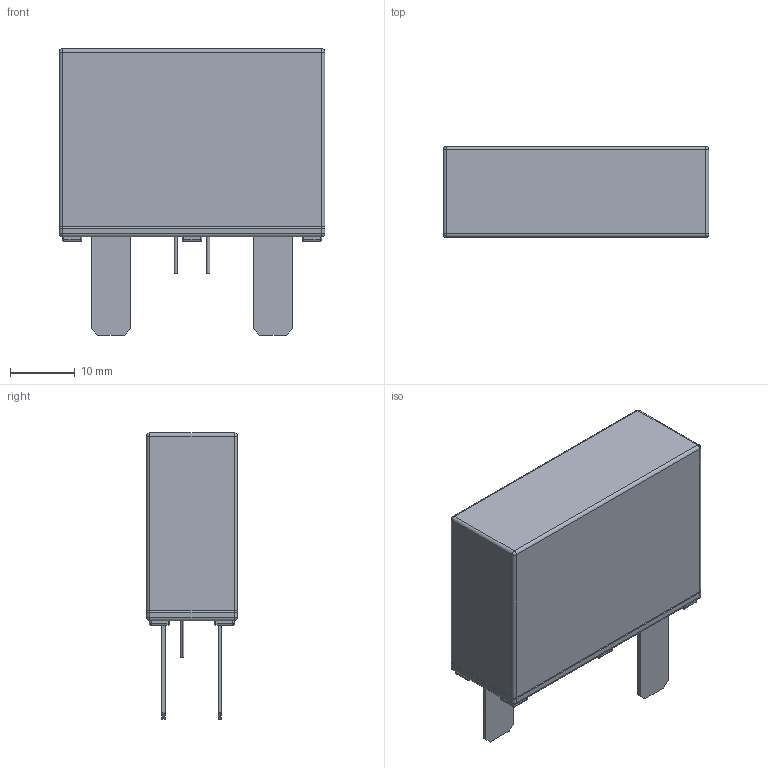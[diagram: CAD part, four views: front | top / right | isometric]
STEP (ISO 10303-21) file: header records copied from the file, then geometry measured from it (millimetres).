
FILE_DESCRIPTION((''),'2;1');
FILE_NAME('TFMOV20K-14-20200619','2020-06-24T',('set'),(''),'PRO/ENGINEER BY PARAMETRIC TECHNOLOGY CORPORATION, 2012310','PRO/ENGINEER BY PARAMETRIC TECHNOLOGY CORPORATION, 2012310','');
FILE_SCHEMA(('CONFIG_CONTROL_DESIGN','SHAPE_APPEARANCE_LAYERS_GROUPS'));
Length unit declared in the file: millimetre
Products named in the file (1): TFMOV20K-14-20200619
Bounding box: 41 x 14 x 44.2 mm (x, y, z)
Volume: 16655.2 mm3; surface area: 5561.6 mm2
Topology: 1 solids, 6 shells, 475 faces, 1188 edges, 744 vertices
Faces by surface type: plane 311, cylinder 116, sphere 32, torus 9, cone 4, bspline 3
Entity records: 17708 total; most frequent: CARTESIAN_POINT 2666, ORIENTED_EDGE 2376, DIRECTION 2323, PRESENTATION_STYLE_ASSIGNMENT 1189, STYLED_ITEM 1189, CURVE_STYLE 1188, EDGE_CURVE 1188, VECTOR 937
